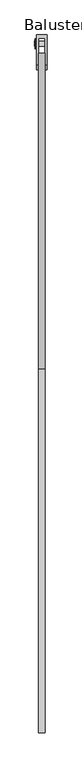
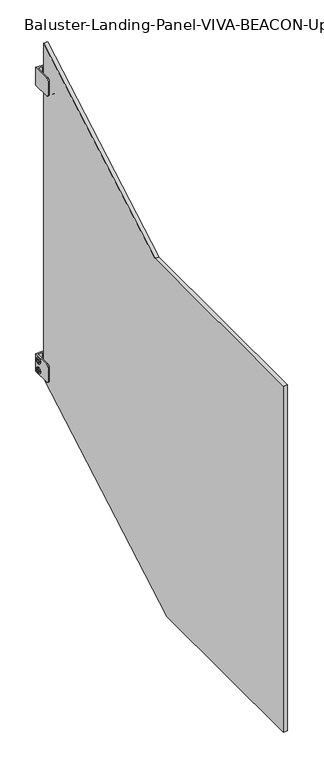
"""IFC4 building model written with IfcOpenShell, lengths in millimetres: railing geometry, Baluster-Landing-Panel-VIVA-BEACON-Upper : Standard_Glass."""

from ifc_helpers import new_model, si_unit, point, frame, origin, place, context, project, spatial, polyline, circle_curve, ellipse_curve, trimmed, outline, extrude, source, transform, mapped, element, save
from ifc_brep_helpers import plane_surface, cylinder_surface, revolved_surface, advanced_brep


def baluster_landing_panel_viva_beacon_upper_standard_glass_d6b748e2(model_context):
    return source(origin(), model_context, "Body", "SolidModel", [
        advanced_brep(
        [(28.4327292, 26.9875, 1242.9597801), (28.4327292, 26.9875, 1198.5097801), (28.4327292, -17.4625, 1198.5097801), (28.4327292, -23.8125, 1204.8597801), (28.4327292, -23.8125, 1236.6097801), (28.4327292, -17.4625, 1242.9597801), (44.3077292, 26.9875, 1242.9597801), (44.3077292, -17.4625, 1242.9597801), (44.3077292, -23.8125, 1236.6097801), (44.3077292, -23.8125, 1204.8597801), (44.3077292, -17.4625, 1198.5097801), (44.3077292, 26.9875, 1198.5097801), (41.1327292, -17.4625, 1198.5097801), (41.1327292, 22.2694196, 1198.5097801), (31.6077292, 22.2694196, 1198.5097801), (31.6077292, -17.4625, 1198.5097801), (41.1327292, 22.2694196, 1242.9597801), (31.6077292, 22.2694196, 1242.9597801), (31.6077292, -17.4625, 1242.9597801), (31.6077292, -23.8125, 1236.6097801), (31.6077292, -23.8125, 1204.8597801), (41.1327292, -23.8125, 1204.8597801), (41.1327292, -23.8125, 1236.6097801), (41.1327292, -17.4625, 1242.9597801)],
        [
            (0, 1),
            (1, 2),
            (2, 3, circle_curve(frame((28.4327292, -17.4625, 1204.8597801), z_axis=(-1.0, 0.0, 0.0), x_axis=(0.0, -1.0, 0.0)), 6.35)),
            (3, 4),
            (4, 5, circle_curve(frame((28.4327292, -17.4625, 1236.6097801), z_axis=(-1.0, 0.0, 0.0), x_axis=(0.0, -1.0, 0.0)), 6.35)),
            (5, 0),
            (6, 7),
            (7, 8, circle_curve(frame((44.3077292, -17.4625, 1236.6097801), z_axis=(1.0, 0.0, 0.0), x_axis=(0.0, -1.0, 0.0)), 6.35)),
            (8, 9),
            (9, 10, circle_curve(frame((44.3077292, -17.4625, 1204.8597801), z_axis=(1.0, 0.0, 0.0), x_axis=(0.0, -1.0, 0.0)), 6.35)),
            (10, 11),
            (11, 6),
            (0, 6),
            (11, 1),
            (10, 12),
            (12, 13),
            (13, 14),
            (14, 15),
            (15, 2),
            (13, 16),
            (16, 17),
            (17, 14),
            (17, 18),
            (18, 19, circle_curve(frame((31.6077292, -17.4625, 1236.6097801), z_axis=(1.0, 0.0, 0.0), x_axis=(0.0, -1.0, 0.0)), 6.35)),
            (19, 20),
            (20, 15, circle_curve(frame((31.6077292, -17.4625, 1204.8597801), z_axis=(1.0, 0.0, 0.0), x_axis=(0.0, -1.0, 0.0)), 6.35)),
            (12, 21, circle_curve(frame((41.1327292, -17.4625, 1204.8597801), z_axis=(-1.0, 0.0, 0.0), x_axis=(0.0, -1.0, 0.0)), 6.35)),
            (21, 22),
            (22, 23, circle_curve(frame((41.1327292, -17.4625, 1236.6097801), z_axis=(-1.0, 0.0, 0.0), x_axis=(0.0, -1.0, 0.0)), 6.35)),
            (23, 16),
            (20, 3),
            (9, 21),
            (19, 4),
            (8, 22),
            (18, 5),
            (7, 23),
        ],
        [
            plane_surface(frame((28.4327292, 26.9875, 1198.5097801), z_axis=(-1.0, 0.0, 0.0), x_axis=(0.0, 0.0, -1.0))),
            plane_surface(frame((44.3077292, 26.9875, 1198.5097801), z_axis=(1.0, 0.0, 0.0), x_axis=(0.0, 0.0, 1.0))),
            plane_surface(frame((28.4327292, 26.9875, 1242.9597801), z_axis=(0.0, 1.0, 0.0), x_axis=(1.0, 0.0, 0.0))),
            plane_surface(frame((28.4327292, 26.9875, 1198.5097801), z_axis=(0.0, 0.0, -1.0), x_axis=(1.0, 0.0, 0.0))),
            plane_surface(frame((41.1327292, 22.2694196, 1255.6597801), z_axis=(0.0, -1.0, 0.0), x_axis=(0.0, 0.0, -1.0))),
            plane_surface(frame((31.6077292, 22.2694196, 1255.6597801), z_axis=(1.0, 0.0, 0.0), x_axis=(0.0, 0.0, -1.0))),
            plane_surface(frame((41.1327292, -36.5125, 1255.6597801), z_axis=(-1.0, 0.0, 0.0), x_axis=(0.0, 0.0, -1.0))),
            cylinder_surface(frame((44.3077292, -17.4625, 1204.8597801), z_axis=(-1.0, 0.0, 0.0), x_axis=(0.0, -1.0, 0.0)), 6.35),
            plane_surface(frame((28.4327292, -23.8125, 1204.8597801), z_axis=(0.0, -1.0, 0.0), x_axis=(1.0, 0.0, 0.0))),
            cylinder_surface(frame((44.3077292, -17.4625, 1236.6097801), z_axis=(-1.0, 0.0, 0.0), x_axis=(0.0, -1.0, 0.0)), 6.35),
            plane_surface(frame((28.4327292, -17.4625, 1242.9597801), z_axis=(0.0, 0.0, 1.0), x_axis=(1.0, 0.0, 0.0))),
        ],
        [
            (0, [[1, 2, 3, 4, 5, 6]]),
            (1, [[7, 8, 9, 10, 11, 12]]),
            (2, [[-1, 13, -12, 14]]),
            (3, [[-2, -14, -11, 15, 16, 17, 18, 19]]),
            (4, [[20, 21, 22, -17]]),
            (5, [[-22, 23, 24, 25, 26, -18]]),
            (6, [[-20, -16, 27, 28, 29, 30]]),
            (7, [[-3, -19, -26, 31]]),
            (7, [[-10, 32, -27, -15]]),
            (8, [[-4, -31, -25, 33]]),
            (8, [[-9, 34, -28, -32]]),
            (9, [[-5, -33, -24, 35]]),
            (9, [[-8, 36, -29, -34]]),
            (10, [[-6, -35, -23, -21, -30, -36, -7, -13]]),
        ],
    ),
        extrude(outline(polyline([(18.4480835, 512.022725), (16.4011194, 508.4772791), (12.3071911, 508.4772791), (10.2602269, 512.022725), (12.3071911, 515.5681709), (16.4011194, 515.5681709), (18.4480835, 512.022725)])), frame((26.0686477, 0.0, 0.0), z_axis=(1.0, 0.0, 0.0), x_axis=(0.0, 1.0, 0.0)), (0.0, 0.0, 1.0), 1.4969696),
        advanced_brep(
        [(41.1327292, 17.8996011, 512.022725), (41.1327292, 10.8087093, 512.022725), (28.4327292, 10.8087093, 512.022725), (28.4327292, 17.8996011, 512.022725), (28.4327292, 6.9463661, 512.022725), (28.4327292, 21.7619443, 512.022725), (27.5656173, 16.0102306, 512.022725), (27.5656173, 12.6980798, 512.022725), (41.1327292, 12.6980798, 512.022725), (41.1327292, 16.0102306, 512.022725), (27.5978844, 21.7619443, 512.022725), (27.5978844, 6.9463661, 512.022725), (26.3166123, 8.2276382, 512.022725), (26.3166123, 20.4806723, 512.022725), (26.3166123, 10.0555597, 512.022725), (26.3166123, 18.6527508, 512.022725), (27.5656173, 10.0555597, 512.022725), (27.5656173, 18.6527508, 512.022725)],
        [
            (0, 1, circle_curve(frame((41.1327292, 14.3541552, 512.022725), z_axis=(-1.0, 0.0, 0.0), x_axis=(0.0, -1.0, 0.0)), 3.5454459)),
            (1, 2),
            (2, 3, circle_curve(frame((28.4327292, 14.3541552, 512.022725), z_axis=(1.0, 0.0, 0.0), x_axis=(0.0, -1.0, 0.0)), 3.5454459)),
            (3, 0),
            (1, 0, circle_curve(frame((41.1327292, 14.3541552, 512.022725), z_axis=(-1.0, 0.0, 0.0), x_axis=(0.0, -1.0, 0.0)), 3.5454459)),
            (3, 2, circle_curve(frame((28.4327292, 14.3541552, 512.022725), z_axis=(1.0, 0.0, 0.0), x_axis=(0.0, -1.0, 0.0)), 3.5454459)),
            (2, 4),
            (4, 5, circle_curve(frame((28.4327292, 14.3541552, 512.022725), z_axis=(1.0, 0.0, 0.0), x_axis=(0.0, -1.0, 0.0)), 7.4077891)),
            (5, 3),
            (5, 4, circle_curve(frame((28.4327292, 14.3541552, 512.022725), z_axis=(1.0, 0.0, 0.0), x_axis=(0.0, -1.0, 0.0)), 7.4077891)),
            (6, 7, circle_curve(frame((27.5656173, 14.3541552, 512.022725), z_axis=(-1.0, 0.0, 0.0), x_axis=(0.0, -1.0, 0.0)), 1.6560754)),
            (7, 8),
            (8, 9, circle_curve(frame((41.1327292, 14.3541552, 512.022725), z_axis=(1.0, 0.0, 0.0), x_axis=(0.0, -1.0, 0.0)), 1.6560754)),
            (9, 6),
            (7, 6, circle_curve(frame((27.5656173, 14.3541552, 512.022725), z_axis=(-1.0, 0.0, 0.0), x_axis=(0.0, -1.0, 0.0)), 1.6560754)),
            (9, 8, circle_curve(frame((41.1327292, 14.3541552, 512.022725), z_axis=(1.0, 0.0, 0.0), x_axis=(0.0, -1.0, 0.0)), 1.6560754)),
            (10, 11, circle_curve(frame((27.5978844, 14.3541552, 512.022725), z_axis=(-1.0, 0.0, 0.0), x_axis=(0.0, -1.0, 0.0)), 7.4077891)),
            (11, 12, circle_curve(frame((27.5978844, 8.2276382, 512.022725), z_axis=(0.0, 0.0, -1.0), x_axis=(0.0, -1.0, 0.0)), 1.281272)),
            (12, 13, circle_curve(frame((26.3166123, 14.3541552, 512.022725), z_axis=(1.0, 0.0, 0.0), x_axis=(0.0, -1.0, 0.0)), 6.1265171)),
            (13, 10, circle_curve(frame((27.5978844, 20.4806723, 512.022725), z_axis=(0.0, 0.0, -1.0), x_axis=(0.0, 1.0, 0.0)), 1.281272)),
            (11, 10, circle_curve(frame((27.5978844, 14.3541552, 512.022725), z_axis=(-1.0, 0.0, 0.0), x_axis=(0.0, -1.0, 0.0)), 7.4077891)),
            (13, 12, circle_curve(frame((26.3166123, 14.3541552, 512.022725), z_axis=(1.0, 0.0, 0.0), x_axis=(0.0, -1.0, 0.0)), 6.1265171)),
            (12, 14),
            (14, 15, circle_curve(frame((26.3166123, 14.3541552, 512.022725), z_axis=(1.0, 0.0, 0.0), x_axis=(0.0, -1.0, 0.0)), 4.2985955)),
            (15, 13),
            (15, 14, circle_curve(frame((26.3166123, 14.3541552, 512.022725), z_axis=(1.0, 0.0, 0.0), x_axis=(0.0, -1.0, 0.0)), 4.2985955)),
            (4, 11),
            (10, 5),
            (8, 1),
            (0, 9),
            (14, 16),
            (16, 17, circle_curve(frame((27.5656173, 14.3541552, 512.022725), z_axis=(1.0, 0.0, 0.0), x_axis=(0.0, -1.0, 0.0)), 4.2985955)),
            (17, 15),
            (17, 16, circle_curve(frame((27.5656173, 14.3541552, 512.022725), z_axis=(1.0, 0.0, 0.0), x_axis=(0.0, -1.0, 0.0)), 4.2985955)),
            (16, 7),
            (6, 17),
        ],
        [
            cylinder_surface(frame((31.9294623, 14.3541552, 512.022725), z_axis=(1.0, 0.0, 0.0), x_axis=(0.0, -1.0, 0.0)), 3.5454459),
            plane_surface(frame((28.4327292, 14.3541552, 512.022725), z_axis=(1.0, 0.0, 0.0), x_axis=(0.0, -1.0, 0.0))),
            revolved_surface(polyline([(41.1327292, 12.698079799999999, 512.022725), (27.5656173, 12.698079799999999, 512.022725)]), (31.9294623, 14.3541552, 512.022725), (1.0, 0.0, 0.0)),
            revolved_surface(trimmed(ellipse_curve(frame((27.5978844, 8.2276382, 512.022725), z_axis=(0.0, 0.0, 1.0), x_axis=(0.0, -1.0, 0.0)), 1.281272, 1.281272), [point((26.3166123, 8.2276382, 512.022725))], [point((27.5978844, 6.9463661, 512.022725))], True, "CARTESIAN"), (31.9294623, 14.3541552, 512.022725), (1.0, 0.0, 0.0)),
            plane_surface(frame((26.3166123, 14.3541552, 512.022725), z_axis=(-1.0, 0.0, 0.0), x_axis=(0.0, -1.0, 0.0))),
            cylinder_surface(frame((31.9294623, 14.3541552, 512.022725), z_axis=(1.0, 0.0, 0.0), x_axis=(0.0, -1.0, 0.0)), 7.4077891),
            plane_surface(frame((41.1327292, 14.3541552, 512.022725), z_axis=(1.0, 0.0, 0.0), x_axis=(0.0, -1.0, 0.0))),
            revolved_surface(polyline([(27.5656173, 10.0555597, 512.022725), (26.3166123, 10.0555597, 512.022725)]), (31.9294623, 14.3541552, 512.022725), (1.0, 0.0, 0.0)),
            plane_surface(frame((27.5656173, 14.3541552, 512.022725), z_axis=(-1.0, 0.0, 0.0), x_axis=(0.0, -1.0, 0.0))),
        ],
        [
            (0, [[1, 2, 3, 4]]),
            (0, [[5, -4, 6, -2]]),
            (1, [[-3, 7, 8, 9]]),
            (1, [[-6, -9, 10, -7]]),
            (2, [[11, 12, 13, 14]]),
            (2, [[15, -14, 16, -12]]),
            (3, [[17, 18, 19, 20]]),
            (3, [[21, -20, 22, -18]]),
            (4, [[-19, 23, 24, 25]]),
            (4, [[-22, -25, 26, -23]]),
            (5, [[-8, 27, -17, 28]]),
            (5, [[-10, -28, -21, -27]]),
            (6, [[-13, 29, -1, 30]]),
            (6, [[-16, -30, -5, -29]]),
            (7, [[-24, 31, 32, 33]]),
            (7, [[-26, -33, 34, -31]]),
            (8, [[-32, 35, -11, 36]]),
            (8, [[-34, -36, -15, -35]]),
        ],
    ),
        advanced_brep(
        [(41.1327292, 17.8996011, 487.416475), (41.1327292, 10.8087093, 487.416475), (28.4327292, 10.8087093, 487.416475), (28.4327292, 17.8996011, 487.416475), (28.4327292, 6.9463661, 487.416475), (28.4327292, 21.7619443, 487.416475), (27.5656173, 16.0102306, 487.416475), (27.5656173, 12.6980798, 487.416475), (41.1327292, 12.6980798, 487.416475), (41.1327292, 16.0102306, 487.416475), (27.5978844, 21.7619443, 487.416475), (27.5978844, 6.9463661, 487.416475), (26.3166123, 8.2276382, 487.416475), (26.3166123, 20.4806723, 487.416475), (26.3166123, 10.0555597, 487.416475), (26.3166123, 18.6527508, 487.416475), (27.5656173, 10.0555597, 487.416475), (27.5656173, 18.6527508, 487.416475)],
        [
            (0, 1, circle_curve(frame((41.1327292, 14.3541552, 487.416475), z_axis=(-1.0, 0.0, 0.0), x_axis=(0.0, -1.0, 0.0)), 3.5454459)),
            (1, 2),
            (2, 3, circle_curve(frame((28.4327292, 14.3541552, 487.416475), z_axis=(1.0, 0.0, 0.0), x_axis=(0.0, -1.0, 0.0)), 3.5454459)),
            (3, 0),
            (1, 0, circle_curve(frame((41.1327292, 14.3541552, 487.416475), z_axis=(-1.0, 0.0, 0.0), x_axis=(0.0, -1.0, 0.0)), 3.5454459)),
            (3, 2, circle_curve(frame((28.4327292, 14.3541552, 487.416475), z_axis=(1.0, 0.0, 0.0), x_axis=(0.0, -1.0, 0.0)), 3.5454459)),
            (2, 4),
            (4, 5, circle_curve(frame((28.4327292, 14.3541552, 487.416475), z_axis=(1.0, 0.0, 0.0), x_axis=(0.0, -1.0, 0.0)), 7.4077891)),
            (5, 3),
            (5, 4, circle_curve(frame((28.4327292, 14.3541552, 487.416475), z_axis=(1.0, 0.0, 0.0), x_axis=(0.0, -1.0, 0.0)), 7.4077891)),
            (6, 7, circle_curve(frame((27.5656173, 14.3541552, 487.416475), z_axis=(-1.0, 0.0, 0.0), x_axis=(0.0, -1.0, 0.0)), 1.6560754)),
            (7, 8),
            (8, 9, circle_curve(frame((41.1327292, 14.3541552, 487.416475), z_axis=(1.0, 0.0, 0.0), x_axis=(0.0, -1.0, 0.0)), 1.6560754)),
            (9, 6),
            (7, 6, circle_curve(frame((27.5656173, 14.3541552, 487.416475), z_axis=(-1.0, 0.0, 0.0), x_axis=(0.0, -1.0, 0.0)), 1.6560754)),
            (9, 8, circle_curve(frame((41.1327292, 14.3541552, 487.416475), z_axis=(1.0, 0.0, 0.0), x_axis=(0.0, -1.0, 0.0)), 1.6560754)),
            (10, 11, circle_curve(frame((27.5978844, 14.3541552, 487.416475), z_axis=(-1.0, 0.0, 0.0), x_axis=(0.0, -1.0, 0.0)), 7.4077891)),
            (11, 12, circle_curve(frame((27.5978844, 8.2276382, 487.416475), z_axis=(0.0, 0.0, -1.0), x_axis=(0.0, -1.0, 0.0)), 1.281272)),
            (12, 13, circle_curve(frame((26.3166123, 14.3541552, 487.416475), z_axis=(1.0, 0.0, 0.0), x_axis=(0.0, -1.0, 0.0)), 6.1265171)),
            (13, 10, circle_curve(frame((27.5978844, 20.4806723, 487.416475), z_axis=(0.0, 0.0, -1.0), x_axis=(0.0, 1.0, 0.0)), 1.281272)),
            (11, 10, circle_curve(frame((27.5978844, 14.3541552, 487.416475), z_axis=(-1.0, 0.0, 0.0), x_axis=(0.0, -1.0, 0.0)), 7.4077891)),
            (13, 12, circle_curve(frame((26.3166123, 14.3541552, 487.416475), z_axis=(1.0, 0.0, 0.0), x_axis=(0.0, -1.0, 0.0)), 6.1265171)),
            (12, 14),
            (14, 15, circle_curve(frame((26.3166123, 14.3541552, 487.416475), z_axis=(1.0, 0.0, 0.0), x_axis=(0.0, -1.0, 0.0)), 4.2985955)),
            (15, 13),
            (15, 14, circle_curve(frame((26.3166123, 14.3541552, 487.416475), z_axis=(1.0, 0.0, 0.0), x_axis=(0.0, -1.0, 0.0)), 4.2985955)),
            (8, 1),
            (0, 9),
            (4, 11),
            (10, 5),
            (14, 16),
            (16, 17, circle_curve(frame((27.5656173, 14.3541552, 487.416475), z_axis=(1.0, 0.0, 0.0), x_axis=(0.0, -1.0, 0.0)), 4.2985955)),
            (17, 15),
            (17, 16, circle_curve(frame((27.5656173, 14.3541552, 487.416475), z_axis=(1.0, 0.0, 0.0), x_axis=(0.0, -1.0, 0.0)), 4.2985955)),
            (16, 7),
            (6, 17),
        ],
        [
            cylinder_surface(frame((31.9294623, 14.3541552, 487.416475), z_axis=(1.0, 0.0, 0.0), x_axis=(0.0, -1.0, 0.0)), 3.5454459),
            plane_surface(frame((28.4327292, 14.3541552, 487.416475), z_axis=(1.0, 0.0, 0.0), x_axis=(0.0, -1.0, 0.0))),
            revolved_surface(polyline([(41.1327292, 12.698079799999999, 487.416475), (27.5656173, 12.698079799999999, 487.416475)]), (31.9294623, 14.3541552, 487.416475), (1.0, 0.0, 0.0)),
            revolved_surface(trimmed(ellipse_curve(frame((27.5978844, 8.2276382, 487.416475), z_axis=(0.0, 0.0, 1.0), x_axis=(0.0, -1.0, 0.0)), 1.281272, 1.281272), [point((26.3166123, 8.2276382, 487.416475))], [point((27.5978844, 6.9463661, 487.416475))], True, "CARTESIAN"), (31.9294623, 14.3541552, 487.416475), (1.0, 0.0, 0.0)),
            plane_surface(frame((26.3166123, 14.3541552, 487.416475), z_axis=(-1.0, 0.0, 0.0), x_axis=(0.0, -1.0, 0.0))),
            plane_surface(frame((41.1327292, 14.3541552, 487.416475), z_axis=(1.0, 0.0, 0.0), x_axis=(0.0, -1.0, 0.0))),
            cylinder_surface(frame((31.9294623, 14.3541552, 487.416475), z_axis=(1.0, 0.0, 0.0), x_axis=(0.0, -1.0, 0.0)), 7.4077891),
            revolved_surface(polyline([(27.5656173, 10.0555597, 487.416475), (26.3166123, 10.0555597, 487.416475)]), (31.9294623, 14.3541552, 487.416475), (1.0, 0.0, 0.0)),
            plane_surface(frame((27.5656173, 14.3541552, 487.416475), z_axis=(-1.0, 0.0, 0.0), x_axis=(0.0, -1.0, 0.0))),
        ],
        [
            (0, [[1, 2, 3, 4]]),
            (0, [[5, -4, 6, -2]]),
            (1, [[-3, 7, 8, 9]]),
            (1, [[-6, -9, 10, -7]]),
            (2, [[11, 12, 13, 14]]),
            (2, [[15, -14, 16, -12]]),
            (3, [[17, 18, 19, 20]]),
            (3, [[21, -20, 22, -18]]),
            (4, [[-19, 23, 24, 25]]),
            (4, [[-22, -25, 26, -23]]),
            (5, [[-13, 27, -1, 28]]),
            (5, [[-16, -28, -5, -27]]),
            (6, [[-8, 29, -17, 30]]),
            (6, [[-10, -30, -21, -29]]),
            (7, [[-24, 31, 32, 33]]),
            (7, [[-26, -33, 34, -31]]),
            (8, [[-32, 35, -11, 36]]),
            (8, [[-34, -36, -15, -35]]),
        ],
    ),
        extrude(outline(polyline([(18.4480835, 487.416475), (16.4011194, 483.8710291), (12.3071911, 483.8710291), (10.2602269, 487.416475), (12.3071911, 490.9619209), (16.4011194, 490.9619209), (18.4480835, 487.416475)])), frame((26.0686477, 0.0, 0.0), z_axis=(1.0, 0.0, 0.0), x_axis=(0.0, 1.0, 0.0)), (0.0, 0.0, 1.0), 1.4969696),
        advanced_brep(
        [(28.4327292, 26.9875, 521.9446), (28.4327292, 26.9875, 477.4946), (28.4327292, -17.4625, 477.4946), (28.4327292, -23.8125, 483.8446), (28.4327292, -23.8125, 515.5946), (28.4327292, -17.4625, 521.9446), (44.3077292, 26.9875, 521.9446), (44.3077292, -17.4625, 521.9446), (44.3077292, -23.8125, 515.5946), (44.3077292, -23.8125, 483.8446), (44.3077292, -17.4625, 477.4946), (44.3077292, 26.9875, 477.4946), (41.1327292, -17.4625, 477.4946), (41.1327292, 22.2694196, 477.4946), (31.6077292, 22.2694196, 477.4946), (31.6077292, -17.4625, 477.4946), (41.1327292, 22.2694196, 521.9446), (31.6077292, 22.2694196, 521.9446), (31.6077292, -17.4625, 521.9446), (31.6077292, -23.8125, 515.5946), (31.6077292, -23.8125, 483.8446), (41.1327292, -23.8125, 483.8446), (41.1327292, -23.8125, 515.5946), (41.1327292, -17.4625, 521.9446)],
        [
            (0, 1),
            (1, 2),
            (2, 3, circle_curve(frame((28.4327292, -17.4625, 483.8446), z_axis=(-1.0, 0.0, 0.0), x_axis=(0.0, -1.0, 0.0)), 6.35)),
            (3, 4),
            (4, 5, circle_curve(frame((28.4327292, -17.4625, 515.5946), z_axis=(-1.0, 0.0, 0.0), x_axis=(0.0, -1.0, 0.0)), 6.35)),
            (5, 0),
            (6, 7),
            (7, 8, circle_curve(frame((44.3077292, -17.4625, 515.5946), z_axis=(1.0, 0.0, 0.0), x_axis=(0.0, -1.0, 0.0)), 6.35)),
            (8, 9),
            (9, 10, circle_curve(frame((44.3077292, -17.4625, 483.8446), z_axis=(1.0, 0.0, 0.0), x_axis=(0.0, -1.0, 0.0)), 6.35)),
            (10, 11),
            (11, 6),
            (0, 6),
            (11, 1),
            (10, 12),
            (12, 13),
            (13, 14),
            (14, 15),
            (15, 2),
            (13, 16),
            (16, 17),
            (17, 14),
            (17, 18),
            (18, 19, circle_curve(frame((31.6077292, -17.4625, 515.5946), z_axis=(1.0, 0.0, 0.0), x_axis=(0.0, -1.0, 0.0)), 6.35)),
            (19, 20),
            (20, 15, circle_curve(frame((31.6077292, -17.4625, 483.8446), z_axis=(1.0, 0.0, 0.0), x_axis=(0.0, -1.0, 0.0)), 6.35)),
            (12, 21, circle_curve(frame((41.1327292, -17.4625, 483.8446), z_axis=(-1.0, 0.0, 0.0), x_axis=(0.0, -1.0, 0.0)), 6.35)),
            (21, 22),
            (22, 23, circle_curve(frame((41.1327292, -17.4625, 515.5946), z_axis=(-1.0, 0.0, 0.0), x_axis=(0.0, -1.0, 0.0)), 6.35)),
            (23, 16),
            (20, 3),
            (9, 21),
            (19, 4),
            (8, 22),
            (18, 5),
            (7, 23),
        ],
        [
            plane_surface(frame((28.4327292, 26.9875, 477.4946), z_axis=(-1.0, 0.0, 0.0), x_axis=(0.0, 0.0, -1.0))),
            plane_surface(frame((44.3077292, 26.9875, 477.4946), z_axis=(1.0, 0.0, 0.0), x_axis=(0.0, 0.0, 1.0))),
            plane_surface(frame((28.4327292, 26.9875, 521.9446), z_axis=(0.0, 1.0, 0.0), x_axis=(1.0, 0.0, 0.0))),
            plane_surface(frame((28.4327292, 26.9875, 477.4946), z_axis=(0.0, 0.0, -1.0), x_axis=(1.0, 0.0, 0.0))),
            plane_surface(frame((41.1327292, 22.2694196, 534.6446), z_axis=(0.0, -1.0, 0.0), x_axis=(0.0, 0.0, -1.0))),
            plane_surface(frame((31.6077292, 22.2694196, 534.6446), z_axis=(1.0, 0.0, 0.0), x_axis=(0.0, 0.0, -1.0))),
            plane_surface(frame((41.1327292, -36.5125, 534.6446), z_axis=(-1.0, 0.0, 0.0), x_axis=(0.0, 0.0, -1.0))),
            cylinder_surface(frame((44.3077292, -17.4625, 483.8446), z_axis=(-1.0, 0.0, 0.0), x_axis=(0.0, -1.0, 0.0)), 6.35),
            plane_surface(frame((28.4327292, -23.8125, 483.8446), z_axis=(0.0, -1.0, 0.0), x_axis=(1.0, 0.0, 0.0))),
            cylinder_surface(frame((44.3077292, -17.4625, 515.5946), z_axis=(-1.0, 0.0, 0.0), x_axis=(0.0, -1.0, 0.0)), 6.35),
            plane_surface(frame((28.4327292, -17.4625, 521.9446), z_axis=(0.0, 0.0, 1.0), x_axis=(1.0, 0.0, 0.0))),
        ],
        [
            (0, [[1, 2, 3, 4, 5, 6]]),
            (1, [[7, 8, 9, 10, 11, 12]]),
            (2, [[-1, 13, -12, 14]]),
            (3, [[-2, -14, -11, 15, 16, 17, 18, 19]]),
            (4, [[20, 21, 22, -17]]),
            (5, [[-22, 23, 24, 25, 26, -18]]),
            (6, [[-20, -16, 27, 28, 29, 30]]),
            (7, [[-3, -19, -26, 31]]),
            (7, [[-10, 32, -27, -15]]),
            (8, [[-4, -31, -25, 33]]),
            (8, [[-9, 34, -28, -32]]),
            (9, [[-5, -33, -24, 35]]),
            (9, [[-8, 36, -29, -34]]),
            (10, [[-6, -35, -23, -21, -30, -36, -7, -13]]),
        ],
    ),
        extrude(outline(polyline([(-460.2118284, 1056.2336), (0.0, 1319.1597801), (0.0, 475.2086), (-509.8586378, 183.918425), (-990.6838797, 183.918425), (-990.6838797, 1056.2336), (-460.2118284, 1056.2336)])), frame((31.6077292, 0.0, 0.0), z_axis=(1.0, 0.0, 0.0), x_axis=(0.0, 1.0, 0.0)), (0.0, 0.0, 1.0), 9.525),
    ])


if __name__ == "__main__":
    model = new_model("IFC4")
    model_context = context("Model", 3, world=origin())
    ifc_project = project(units=[si_unit("LENGTHUNIT", "METRE", prefix="MILLI")], contexts=[model_context])
    site = spatial("IfcSite", under=ifc_project)
    building = spatial("IfcBuilding", under=site)
    placement = place(None, origin())
    baluster_landing_panel_viva_beacon_upper_standard_glass_shape = baluster_landing_panel_viva_beacon_upper_standard_glass_d6b748e2(model_context)
    element("IfcRailing", 1, ObjectType="Baluster-Landing-Panel-VIVA-BEACON-Upper : Standard_Glass", at=placement, inside=building, context=model_context, shape_type="MappedRepresentation", body=[
        mapped(baluster_landing_panel_viva_beacon_upper_standard_glass_shape, transform((0.0, 0.0, 0.0), x_axis=(1.0, 0.0, 0.0), y_axis=(0.0, 1.0, 0.0), z_axis=(0.0, 0.0, 1.0))),
    ])
    save(model, "model.ifc")
